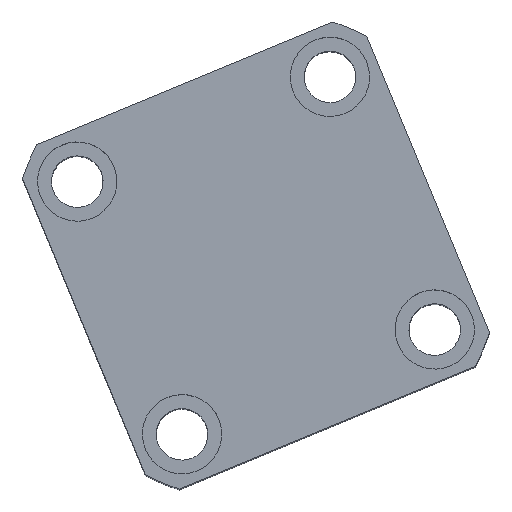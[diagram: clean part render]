
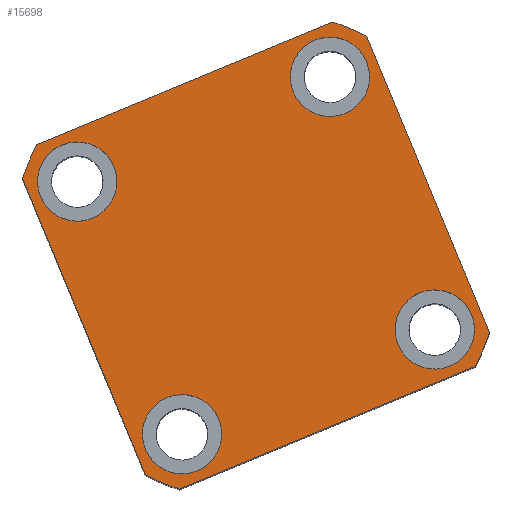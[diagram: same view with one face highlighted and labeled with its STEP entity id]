
A CAD part, top view. The second image highlights one B-rep face of the part: STEP entity #15698.
In plain terms, the highlighted planar face has unit normal (0, 0, 1) as drawn and (0, 0, -1) by its records, which use the part's own axes.
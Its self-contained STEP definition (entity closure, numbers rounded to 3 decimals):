
#39 = LINE ( 'NONE', #1593, #18389 ) ;
#55 = VERTEX_POINT ( 'NONE', #3400 ) ;
#61 = VERTEX_POINT ( 'NONE', #6856 ) ;
#78 = EDGE_CURVE ( 'NONE', #21184, #8407, #5849, .T. ) ;
#272 = CARTESIAN_POINT ( 'NONE',  ( 34.5, -34.5, 0. ) ) ;
#494 = CARTESIAN_POINT ( 'NONE',  ( 47., 40.435, 0. ) ) ;
#672 = CIRCLE ( 'NONE', #4504, 62. ) ;
#1130 = DIRECTION ( 'NONE',  ( 0., 0., 1. ) ) ;
#1160 = VERTEX_POINT ( 'NONE', #11836 ) ;
#1593 = CARTESIAN_POINT ( 'NONE',  ( -47., 47., 0. ) ) ;
#1649 = EDGE_CURVE ( 'NONE', #12815, #21937, #16068, .T. ) ;
#1822 = ORIENTED_EDGE ( 'NONE', *, *, #15642, .F. ) ;
#1888 = CARTESIAN_POINT ( 'NONE',  ( -44.5, 34.5, 0. ) ) ;
#1909 = VECTOR ( 'NONE', #16906, 1000. ) ;
#1954 = EDGE_LOOP ( 'NONE', ( #5355, #3735 ) ) ;
#2020 = DIRECTION ( 'NONE',  ( -1., 0., 0. ) ) ;
#2338 = ORIENTED_EDGE ( 'NONE', *, *, #4965, .F. ) ;
#2343 = AXIS2_PLACEMENT_3D ( 'NONE', #12708, #4158, #16196 ) ;
#2389 = AXIS2_PLACEMENT_3D ( 'NONE', #7669, #19717, #9375 ) ;
#2765 = VECTOR ( 'NONE', #12958, 1000. ) ;
#3174 = CARTESIAN_POINT ( 'NONE',  ( 0., 0., 0. ) ) ;
#3400 = CARTESIAN_POINT ( 'NONE',  ( 47., -40.435, 0. ) ) ;
#3735 = ORIENTED_EDGE ( 'NONE', *, *, #15624, .F. ) ;
#3890 = CARTESIAN_POINT ( 'NONE',  ( -40.435, -47., 0. ) ) ;
#3927 = DIRECTION ( 'NONE',  ( 0., 0., -1. ) ) ;
#4158 = DIRECTION ( 'NONE',  ( 0., 0., 1. ) ) ;
#4504 = AXIS2_PLACEMENT_3D ( 'NONE', #5514, #17575, #7259 ) ;
#4534 = AXIS2_PLACEMENT_3D ( 'NONE', #3174, #15233, #4906 ) ;
#4704 = CARTESIAN_POINT ( 'NONE',  ( -47., 47., 0. ) ) ;
#4811 = ORIENTED_EDGE ( 'NONE', *, *, #13148, .F. ) ;
#4834 = DIRECTION ( 'NONE',  ( -1., 0., 0. ) ) ;
#4855 = CIRCLE ( 'NONE', #7433, 10. ) ;
#4891 = ORIENTED_EDGE ( 'NONE', *, *, #17123, .F. ) ;
#4906 = DIRECTION ( 'NONE',  ( 1., 0., 0. ) ) ;
#4965 = EDGE_CURVE ( 'NONE', #19570, #7570, #672, .T. ) ;
#5055 = DIRECTION ( 'NONE',  ( 0., 0., -1. ) ) ;
#5194 = VERTEX_POINT ( 'NONE', #18235 ) ;
#5355 = ORIENTED_EDGE ( 'NONE', *, *, #1649, .F. ) ;
#5514 = CARTESIAN_POINT ( 'NONE',  ( 0., 0., 0. ) ) ;
#5803 = EDGE_LOOP ( 'NONE', ( #8840, #20366 ) ) ;
#5849 = CIRCLE ( 'NONE', #10691, 10. ) ;
#6069 = CARTESIAN_POINT ( 'NONE',  ( -24.5, -34.5, 0. ) ) ;
#6115 = AXIS2_PLACEMENT_3D ( 'NONE', #272, #12334, #2020 ) ;
#6337 = LINE ( 'NONE', #11543, #10351 ) ;
#6412 = EDGE_CURVE ( 'NONE', #55, #17215, #6337, .T. ) ;
#6508 = LINE ( 'NONE', #4704, #1909 ) ;
#6692 = DIRECTION ( 'NONE',  ( -1., 0., 0. ) ) ;
#6782 = CARTESIAN_POINT ( 'NONE',  ( 34.5, 34.5, 0. ) ) ;
#6856 = CARTESIAN_POINT ( 'NONE',  ( -47., -40.435, 0. ) ) ;
#6910 = DIRECTION ( 'NONE',  ( 0., 0., -1. ) ) ;
#6979 = DIRECTION ( 'NONE',  ( 0., 0., -1. ) ) ;
#7147 = AXIS2_PLACEMENT_3D ( 'NONE', #17297, #6979, #19023 ) ;
#7259 = DIRECTION ( 'NONE',  ( 1., 0., 0. ) ) ;
#7433 = AXIS2_PLACEMENT_3D ( 'NONE', #10006, #22102, #11763 ) ;
#7457 = PLANE ( 'NONE',  #2343 ) ;
#7570 = VERTEX_POINT ( 'NONE', #19957 ) ;
#7621 = CARTESIAN_POINT ( 'NONE',  ( -24.5, 34.5, 0. ) ) ;
#7669 = CARTESIAN_POINT ( 'NONE',  ( 0., 0., 0. ) ) ;
#7973 = CARTESIAN_POINT ( 'NONE',  ( -40.435, 47., 0. ) ) ;
#8407 = VERTEX_POINT ( 'NONE', #12078 ) ;
#8717 = DIRECTION ( 'NONE',  ( 0., 0., -1. ) ) ;
#8840 = ORIENTED_EDGE ( 'NONE', *, *, #11403, .F. ) ;
#8882 = CIRCLE ( 'NONE', #14963, 10. ) ;
#8935 = DIRECTION ( 'NONE',  ( 0., 0., -1. ) ) ;
#9375 = DIRECTION ( 'NONE',  ( 1., 0., 0. ) ) ;
#9384 = EDGE_CURVE ( 'NONE', #9716, #19041, #4855, .T. ) ;
#9421 = CIRCLE ( 'NONE', #15486, 10. ) ;
#9716 = VERTEX_POINT ( 'NONE', #1888 ) ;
#9936 = EDGE_CURVE ( 'NONE', #5194, #55, #10731, .T. ) ;
#10006 = CARTESIAN_POINT ( 'NONE',  ( -34.5, 34.5, 0. ) ) ;
#10351 = VECTOR ( 'NONE', #15036, 1000. ) ;
#10691 = AXIS2_PLACEMENT_3D ( 'NONE', #18739, #6910, #6692 ) ;
#10731 = CIRCLE ( 'NONE', #2389, 62. ) ;
#11179 = ORIENTED_EDGE ( 'NONE', *, *, #9936, .F. ) ;
#11403 = EDGE_CURVE ( 'NONE', #16324, #14219, #19885, .T. ) ;
#11442 = CARTESIAN_POINT ( 'NONE',  ( 0., 0., 0. ) ) ;
#11543 = CARTESIAN_POINT ( 'NONE',  ( 47., 47., 0. ) ) ;
#11746 = VERTEX_POINT ( 'NONE', #3890 ) ;
#11763 = DIRECTION ( 'NONE',  ( -1., 0., 0. ) ) ;
#11836 = CARTESIAN_POINT ( 'NONE',  ( 40.435, 47., 0. ) ) ;
#12078 = CARTESIAN_POINT ( 'NONE',  ( 24.5, -34.5, 0. ) ) ;
#12150 = AXIS2_PLACEMENT_3D ( 'NONE', #6782, #5055, #4834 ) ;
#12334 = DIRECTION ( 'NONE',  ( 0., 0., -1. ) ) ;
#12708 = CARTESIAN_POINT ( 'NONE',  ( 0., 0., 0. ) ) ;
#12713 = CIRCLE ( 'NONE', #17806, 10. ) ;
#12758 = EDGE_CURVE ( 'NONE', #17215, #1160, #21507, .T. ) ;
#12815 = VERTEX_POINT ( 'NONE', #21786 ) ;
#12946 = FACE_BOUND ( 'NONE', #5803, .T. ) ;
#12958 = DIRECTION ( 'NONE',  ( 1., 0., 0. ) ) ;
#13083 = CARTESIAN_POINT ( 'NONE',  ( 44.5, -34.5, 0. ) ) ;
#13148 = EDGE_CURVE ( 'NONE', #7570, #61, #39, .T. ) ;
#13181 = DIRECTION ( 'NONE',  ( 1., 0., 0. ) ) ;
#13194 = AXIS2_PLACEMENT_3D ( 'NONE', #11442, #1130, #13181 ) ;
#14219 = VERTEX_POINT ( 'NONE', #6069 ) ;
#14241 = CARTESIAN_POINT ( 'NONE',  ( -34.5, 34.5, 0. ) ) ;
#14904 = EDGE_LOOP ( 'NONE', ( #21883, #1822 ) ) ;
#14963 = AXIS2_PLACEMENT_3D ( 'NONE', #19278, #8935, #21028 ) ;
#15036 = DIRECTION ( 'NONE',  ( 0., 1., 0. ) ) ;
#15233 = DIRECTION ( 'NONE',  ( 0., 0., 1. ) ) ;
#15335 = EDGE_CURVE ( 'NONE', #1160, #19570, #6508, .T. ) ;
#15380 = CIRCLE ( 'NONE', #4534, 62. ) ;
#15462 = DIRECTION ( 'NONE',  ( 0., -1., 0. ) ) ;
#15486 = AXIS2_PLACEMENT_3D ( 'NONE', #14241, #3927, #15977 ) ;
#15624 = EDGE_CURVE ( 'NONE', #21937, #12815, #8882, .T. ) ;
#15642 = EDGE_CURVE ( 'NONE', #19041, #9716, #9421, .T. ) ;
#15698 = ADVANCED_FACE ( 'NONE', ( #22132, #12946, #17546, #21588, #17009 ), #7457, .F. ) ;
#15977 = DIRECTION ( 'NONE',  ( -1., 0., 0. ) ) ;
#15983 = LINE ( 'NONE', #21571, #2765 ) ;
#16068 = CIRCLE ( 'NONE', #12150, 10. ) ;
#16196 = DIRECTION ( 'NONE',  ( 1., 0., 0. ) ) ;
#16255 = ORIENTED_EDGE ( 'NONE', *, *, #15335, .F. ) ;
#16324 = VERTEX_POINT ( 'NONE', #21397 ) ;
#16401 = EDGE_LOOP ( 'NONE', ( #4891, #20423 ) ) ;
#16651 = ORIENTED_EDGE ( 'NONE', *, *, #6412, .F. ) ;
#16906 = DIRECTION ( 'NONE',  ( -1., 0., 0. ) ) ;
#16910 = ORIENTED_EDGE ( 'NONE', *, *, #12758, .F. ) ;
#17009 = FACE_OUTER_BOUND ( 'NONE', #17288, .T. ) ;
#17123 = EDGE_CURVE ( 'NONE', #8407, #21184, #20224, .T. ) ;
#17150 = CARTESIAN_POINT ( 'NONE',  ( 44.5, 34.5, 0. ) ) ;
#17215 = VERTEX_POINT ( 'NONE', #494 ) ;
#17288 = EDGE_LOOP ( 'NONE', ( #16910, #16651, #11179, #20828, #20900, #4811, #2338, #16255 ) ) ;
#17297 = CARTESIAN_POINT ( 'NONE',  ( -34.5, -34.5, 0. ) ) ;
#17546 = FACE_BOUND ( 'NONE', #14904, .T. ) ;
#17575 = DIRECTION ( 'NONE',  ( 0., 0., 1. ) ) ;
#17617 = EDGE_CURVE ( 'NONE', #61, #11746, #15380, .T. ) ;
#17806 = AXIS2_PLACEMENT_3D ( 'NONE', #19060, #8717, #20797 ) ;
#18235 = CARTESIAN_POINT ( 'NONE',  ( 40.435, -47., 0. ) ) ;
#18389 = VECTOR ( 'NONE', #15462, 1000. ) ;
#18739 = CARTESIAN_POINT ( 'NONE',  ( 34.5, -34.5, 0. ) ) ;
#19023 = DIRECTION ( 'NONE',  ( -1., 0., 0. ) ) ;
#19041 = VERTEX_POINT ( 'NONE', #7621 ) ;
#19060 = CARTESIAN_POINT ( 'NONE',  ( -34.5, -34.5, 0. ) ) ;
#19278 = CARTESIAN_POINT ( 'NONE',  ( 34.5, 34.5, 0. ) ) ;
#19570 = VERTEX_POINT ( 'NONE', #7973 ) ;
#19717 = DIRECTION ( 'NONE',  ( 0., 0., 1. ) ) ;
#19885 = CIRCLE ( 'NONE', #7147, 10. ) ;
#19957 = CARTESIAN_POINT ( 'NONE',  ( -47., 40.435, 0. ) ) ;
#20224 = CIRCLE ( 'NONE', #6115, 10. ) ;
#20306 = EDGE_CURVE ( 'NONE', #11746, #5194, #15983, .T. ) ;
#20366 = ORIENTED_EDGE ( 'NONE', *, *, #20781, .F. ) ;
#20423 = ORIENTED_EDGE ( 'NONE', *, *, #78, .F. ) ;
#20781 = EDGE_CURVE ( 'NONE', #14219, #16324, #12713, .T. ) ;
#20797 = DIRECTION ( 'NONE',  ( -1., 0., 0. ) ) ;
#20828 = ORIENTED_EDGE ( 'NONE', *, *, #20306, .F. ) ;
#20900 = ORIENTED_EDGE ( 'NONE', *, *, #17617, .F. ) ;
#21028 = DIRECTION ( 'NONE',  ( -1., 0., 0. ) ) ;
#21184 = VERTEX_POINT ( 'NONE', #13083 ) ;
#21397 = CARTESIAN_POINT ( 'NONE',  ( -44.5, -34.5, 0. ) ) ;
#21507 = CIRCLE ( 'NONE', #13194, 62. ) ;
#21571 = CARTESIAN_POINT ( 'NONE',  ( -47., -47., 0. ) ) ;
#21588 = FACE_BOUND ( 'NONE', #1954, .T. ) ;
#21786 = CARTESIAN_POINT ( 'NONE',  ( 24.5, 34.5, 0. ) ) ;
#21883 = ORIENTED_EDGE ( 'NONE', *, *, #9384, .F. ) ;
#21937 = VERTEX_POINT ( 'NONE', #17150 ) ;
#22102 = DIRECTION ( 'NONE',  ( 0., 0., -1. ) ) ;
#22132 = FACE_BOUND ( 'NONE', #16401, .T. ) ;
